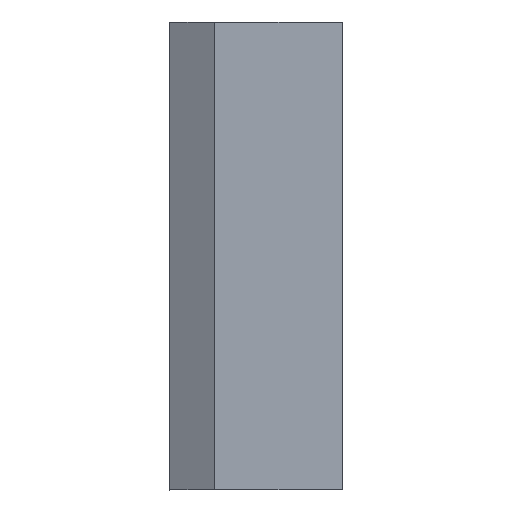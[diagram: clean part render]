
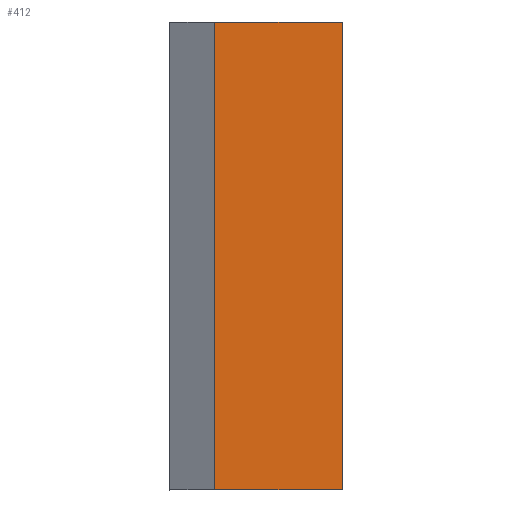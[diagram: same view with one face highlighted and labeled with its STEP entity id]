
A CAD part, left-side view. The second image highlights one B-rep face of the part: STEP entity #412.
In plain terms, the highlighted planar face has unit normal (-1, 0, 0).
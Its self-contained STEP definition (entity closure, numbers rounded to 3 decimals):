
#3 = ORIENTED_EDGE ( 'NONE', *, *, #100, .F. ) ;
#10 = VECTOR ( 'NONE', #158, 1000. ) ;
#52 = VECTOR ( 'NONE', #516, 1000. ) ;
#74 = VECTOR ( 'NONE', #124, 1000. ) ;
#77 = EDGE_CURVE ( 'NONE', #806, #241, #204, .T. ) ;
#100 = EDGE_CURVE ( 'NONE', #268, #546, #407, .T. ) ;
#124 = DIRECTION ( 'NONE',  ( 0., 0., -1. ) ) ;
#129 = PLANE ( 'NONE',  #733 ) ;
#135 = CARTESIAN_POINT ( 'NONE',  ( 0., 1.42, -2.316 ) ) ;
#153 = CARTESIAN_POINT ( 'NONE',  ( 0., 0., -2.316 ) ) ;
#158 = DIRECTION ( 'NONE',  ( 0., 1., 0. ) ) ;
#204 = LINE ( 'NONE', #218, #10 ) ;
#208 = DIRECTION ( 'NONE',  ( -1., 0., 0. ) ) ;
#218 = CARTESIAN_POINT ( 'NONE',  ( 0., 0., 2.884 ) ) ;
#240 = CARTESIAN_POINT ( 'NONE',  ( 0., 0., 2.884 ) ) ;
#241 = VERTEX_POINT ( 'NONE', #583 ) ;
#254 = ORIENTED_EDGE ( 'NONE', *, *, #522, .T. ) ;
#268 = VERTEX_POINT ( 'NONE', #347 ) ;
#312 = CARTESIAN_POINT ( 'NONE',  ( 0., 0., 2.884 ) ) ;
#347 = CARTESIAN_POINT ( 'NONE',  ( 0., 0., -2.316 ) ) ;
#375 = DIRECTION ( 'NONE',  ( 0., 0.707, -0.707 ) ) ;
#407 = LINE ( 'NONE', #153, #626 ) ;
#412 = ADVANCED_FACE ( 'NONE', ( #768 ), #129, .T. ) ;
#421 = EDGE_CURVE ( 'NONE', #806, #268, #694, .T. ) ;
#492 = ORIENTED_EDGE ( 'NONE', *, *, #421, .F. ) ;
#516 = DIRECTION ( 'NONE',  ( 0., 0., -1. ) ) ;
#522 = EDGE_CURVE ( 'NONE', #241, #546, #645, .T. ) ;
#530 = DIRECTION ( 'NONE',  ( 0., 1., 0. ) ) ;
#546 = VERTEX_POINT ( 'NONE', #135 ) ;
#556 = ORIENTED_EDGE ( 'NONE', *, *, #77, .T. ) ;
#583 = CARTESIAN_POINT ( 'NONE',  ( 0., 1.42, 2.884 ) ) ;
#626 = VECTOR ( 'NONE', #530, 1000. ) ;
#645 = LINE ( 'NONE', #784, #52 ) ;
#694 = LINE ( 'NONE', #700, #74 ) ;
#700 = CARTESIAN_POINT ( 'NONE',  ( 0., 0., 2.884 ) ) ;
#733 = AXIS2_PLACEMENT_3D ( 'NONE', #312, #208, #375 ) ;
#751 = EDGE_LOOP ( 'NONE', ( #556, #254, #3, #492 ) ) ;
#768 = FACE_OUTER_BOUND ( 'NONE', #751, .T. ) ;
#784 = CARTESIAN_POINT ( 'NONE',  ( 0., 1.42, 2.884 ) ) ;
#806 = VERTEX_POINT ( 'NONE', #240 ) ;
